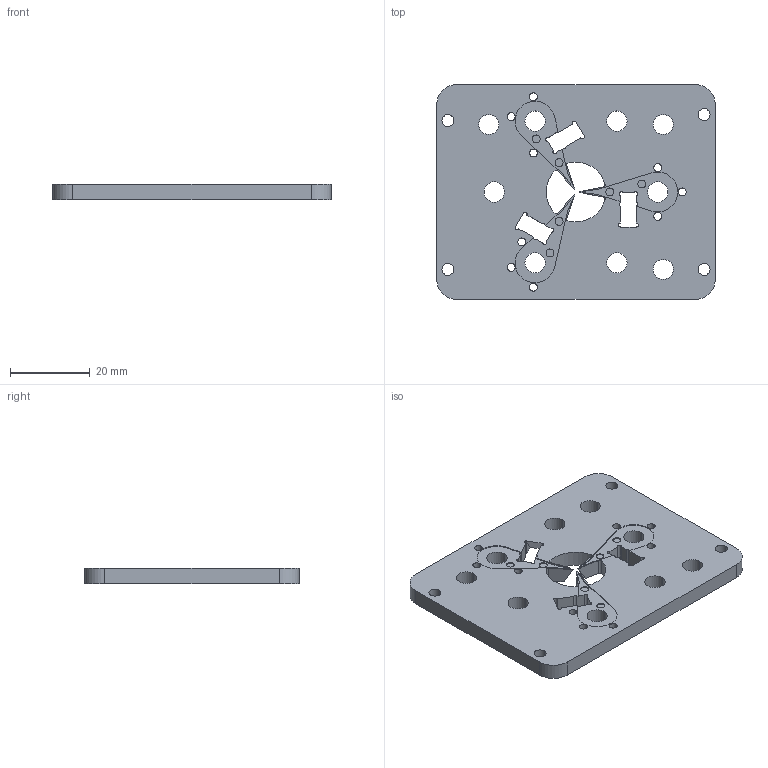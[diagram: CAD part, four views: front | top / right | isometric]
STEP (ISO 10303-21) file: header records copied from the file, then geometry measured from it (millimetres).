
FILE_DESCRIPTION (( 'STEP AP203' ), '1' );
FILE_NAME ('toplid_R2.step', '2026-06-05T03:33:02', ( '' ), ( '' ), 'SwSTEP 2.0', 'SolidWorks 2024', '' );
FILE_SCHEMA (( 'CONFIG_CONTROL_DESIGN' ));
Length unit declared in the file: millimetre
Products named in the file (1): toplid_R2
Bounding box: 69.8 x 53.8 x 4 mm (x, y, z)
Volume: 12817.2 mm3; surface area: 9039.1 mm2
Topology: 1 solids, 1 shells, 170 faces, 489 edges, 324 vertices
Faces by surface type: cylinder 107, plane 60, cone 3
Entity records: 5861 total; most frequent: DIRECTION 1045, CARTESIAN_POINT 1011, ORIENTED_EDGE 978, EDGE_CURVE 489, AXIS2_PLACEMENT_3D 391, VERTEX_POINT 324, LINE 263, VECTOR 263
